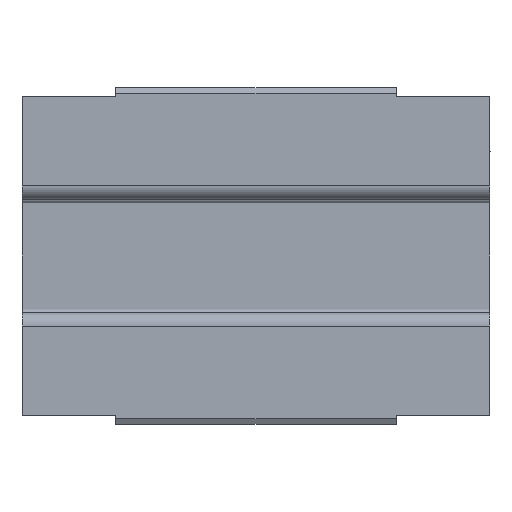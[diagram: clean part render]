
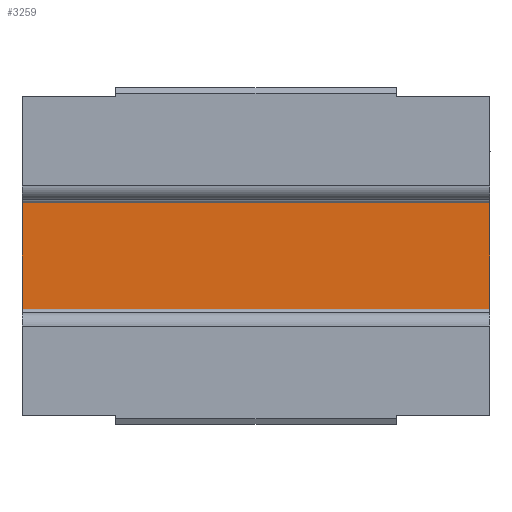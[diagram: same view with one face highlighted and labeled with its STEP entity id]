
A CAD part, front view. The second image highlights one B-rep face of the part: STEP entity #3259.
In plain terms, the highlighted planar face has unit normal (0, -1, 0).
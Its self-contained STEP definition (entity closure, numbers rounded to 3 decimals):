
#3147 = ORIENTED_EDGE ( 'NONE', *, *, #3240, .T. ) ;
#3152 = ORIENTED_EDGE ( 'NONE', *, *, #13801, .T. ) ;
#3177 = EDGE_LOOP ( 'NONE', ( #3278, #3234, #3152, #3147 ) ) ;
#3234 = ORIENTED_EDGE ( 'NONE', *, *, #3235, .T. ) ;
#3235 = EDGE_CURVE ( 'NONE', #14275, #13803, #17103, .T. ) ;
#3240 = EDGE_CURVE ( 'NONE', #13830, #14276, #17145, .T. ) ;
#3259 = ADVANCED_FACE ( 'NONE', ( #18462 ), #18459, .F. ) ;
#3278 = ORIENTED_EDGE ( 'NONE', *, *, #14206, .T. ) ;
#8267 = CARTESIAN_POINT ( 'NONE',  ( -6.65, 3.5, -2.3 ) ) ;
#8268 = DIRECTION ( 'NONE',  ( 0., 0., 1. ) ) ;
#8269 = VECTOR ( 'NONE', #8268, 1000. ) ;
#8270 = CARTESIAN_POINT ( 'NONE',  ( -6.65, 3.5, -2.5 ) ) ;
#8271 = LINE ( 'NONE', #8270, #8269 ) ;
#8328 = CARTESIAN_POINT ( 'NONE',  ( -6.65, 3.5, 2.3 ) ) ;
#9200 = DIRECTION ( 'NONE',  ( 0., 0., -1. ) ) ;
#9201 = VECTOR ( 'NONE', #9200, 1000. ) ;
#9202 = CARTESIAN_POINT ( 'NONE',  ( -23.35, 3.5, -2.5 ) ) ;
#9203 = LINE ( 'NONE', #9202, #9201 ) ;
#9257 = CARTESIAN_POINT ( 'NONE',  ( -23.35, 3.5, 2.3 ) ) ;
#9258 = CARTESIAN_POINT ( 'NONE',  ( -23.35, 3.5, -2.3 ) ) ;
#13801 = EDGE_CURVE ( 'NONE', #13803, #13830, #8271, .T. ) ;
#13803 = VERTEX_POINT ( 'NONE', #8267 ) ;
#13830 = VERTEX_POINT ( 'NONE', #8328 ) ;
#14206 = EDGE_CURVE ( 'NONE', #14276, #14275, #9203, .T. ) ;
#14275 = VERTEX_POINT ( 'NONE', #9258 ) ;
#14276 = VERTEX_POINT ( 'NONE', #9257 ) ;
#17083 = DIRECTION ( 'NONE',  ( -1., 0., 0. ) ) ;
#17084 = VECTOR ( 'NONE', #17131, 1000. ) ;
#17103 = LINE ( 'NONE', #17118, #17084 ) ;
#17118 = CARTESIAN_POINT ( 'NONE',  ( -6.65, 3.5, -2.3 ) ) ;
#17131 = DIRECTION ( 'NONE',  ( 1., 0., 0. ) ) ;
#17143 = VECTOR ( 'NONE', #17083, 1000. ) ;
#17144 = CARTESIAN_POINT ( 'NONE',  ( -23.35, 3.5, 2.3 ) ) ;
#17145 = LINE ( 'NONE', #17144, #17143 ) ;
#18286 = DIRECTION ( 'NONE',  ( 0., 0., 1. ) ) ;
#18456 = DIRECTION ( 'NONE',  ( 0., 1., 0. ) ) ;
#18457 = CARTESIAN_POINT ( 'NONE',  ( -18., 3.5, 0. ) ) ;
#18458 = AXIS2_PLACEMENT_3D ( 'NONE', #18457, #18456, #18286 ) ;
#18459 = PLANE ( 'NONE',  #18458 ) ;
#18462 = FACE_OUTER_BOUND ( 'NONE', #3177, .T. ) ;
